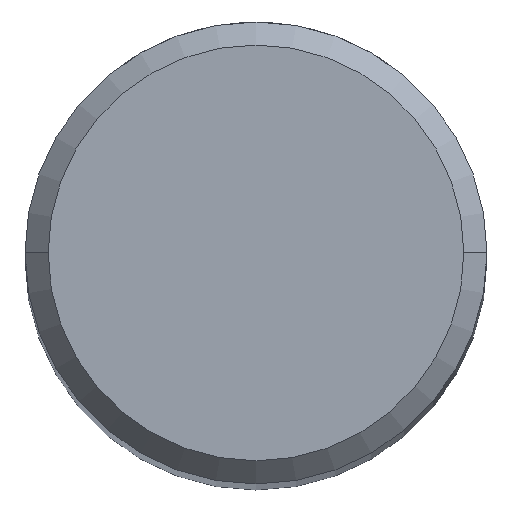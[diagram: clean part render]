
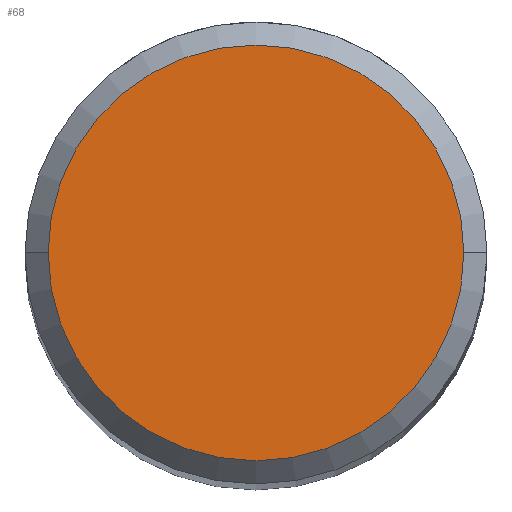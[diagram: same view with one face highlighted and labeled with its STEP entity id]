
A CAD part, top view. The second image highlights one B-rep face of the part: STEP entity #68.
In plain terms, the highlighted planar face has unit normal (0, 0, 1).
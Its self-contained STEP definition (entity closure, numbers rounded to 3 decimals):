
#10 = FACE_OUTER_BOUND ( 'NONE', #238, .T. ) ;
#11 = DIRECTION ( 'NONE',  ( 1., 0., 0. ) ) ;
#58 = DIRECTION ( 'NONE',  ( 0., 0., 1. ) ) ;
#63 = CARTESIAN_POINT ( 'NONE',  ( 1.8, 0., 30.5 ) ) ;
#68 = ADVANCED_FACE ( 'NONE', ( #10 ), #163, .T. ) ;
#94 = AXIS2_PLACEMENT_3D ( 'NONE', #284, #281, #136 ) ;
#95 = DIRECTION ( 'NONE',  ( 0., 0., 1. ) ) ;
#112 = CARTESIAN_POINT ( 'NONE',  ( 0., 0., 30.5 ) ) ;
#121 = EDGE_CURVE ( 'NONE', #273, #272, #180, .T. ) ;
#136 = DIRECTION ( 'NONE',  ( 1., 0., 0. ) ) ;
#144 = ORIENTED_EDGE ( 'NONE', *, *, #121, .T. ) ;
#159 = AXIS2_PLACEMENT_3D ( 'NONE', #112, #58, #11 ) ;
#163 = PLANE ( 'NONE',  #159 ) ;
#165 = AXIS2_PLACEMENT_3D ( 'NONE', #308, #95, #169 ) ;
#169 = DIRECTION ( 'NONE',  ( 1., 0., 0. ) ) ;
#171 = EDGE_CURVE ( 'NONE', #272, #273, #239, .T. ) ;
#180 = CIRCLE ( 'NONE', #94, 1.8 ) ;
#221 = ORIENTED_EDGE ( 'NONE', *, *, #171, .T. ) ;
#238 = EDGE_LOOP ( 'NONE', ( #144, #221 ) ) ;
#239 = CIRCLE ( 'NONE', #165, 1.8 ) ;
#272 = VERTEX_POINT ( 'NONE', #63 ) ;
#273 = VERTEX_POINT ( 'NONE', #283 ) ;
#281 = DIRECTION ( 'NONE',  ( 0., 0., 1. ) ) ;
#283 = CARTESIAN_POINT ( 'NONE',  ( -1.8, 0., 30.5 ) ) ;
#284 = CARTESIAN_POINT ( 'NONE',  ( 0., 0., 30.5 ) ) ;
#308 = CARTESIAN_POINT ( 'NONE',  ( 0., 0., 30.5 ) ) ;
